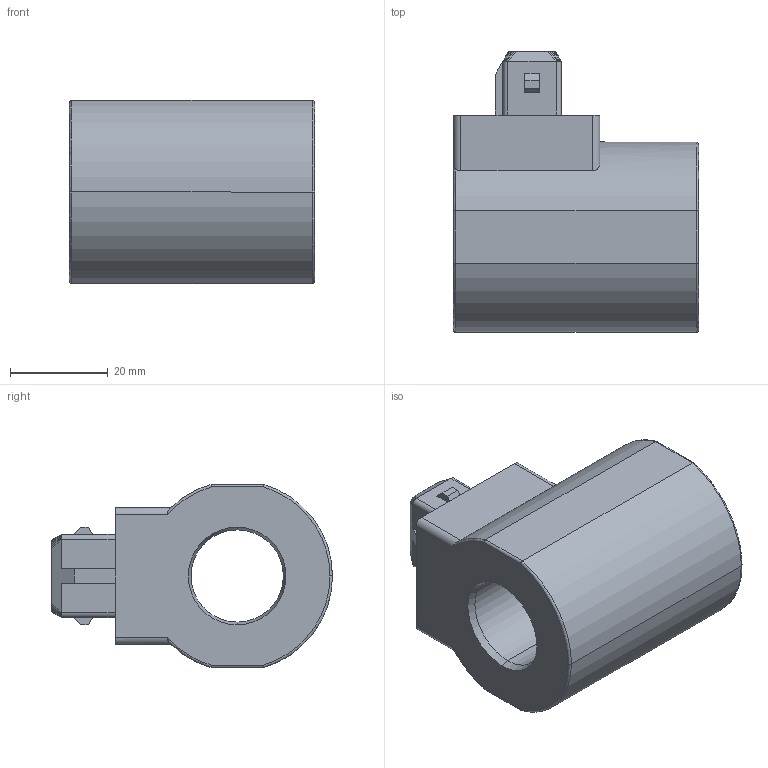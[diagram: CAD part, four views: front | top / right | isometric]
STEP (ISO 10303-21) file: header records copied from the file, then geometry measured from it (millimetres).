
FILE_DESCRIPTION (( 'STEP AP214' ), '1' );
FILE_NAME ('KJ35_16.STEP', '2014-01-22T14:17:01', ( '' ), ( '' ), 'SwSTEP 2.0', 'SolidWorks 2012', '' );
FILE_SCHEMA (( 'AUTOMOTIVE_DESIGN' ));
Length unit declared in the file: millimetre
Products named in the file (1): KJ35_16
Bounding box: 50.2 x 57.5 x 37.5 mm (x, y, z)
Volume: 53321 mm3; surface area: 12885.4 mm2
Topology: 1 solids, 2 shells, 147 faces, 385 edges, 246 vertices
Faces by surface type: plane 113, cylinder 23, bspline 7, cone 4
Entity records: 6584 total; most frequent: CARTESIAN_POINT 1404, ORIENTED_EDGE 770, DIRECTION 688, EDGE_CURVE 385, LINE 306, VECTOR 306, VERTEX_POINT 246, AXIS2_PLACEMENT_3D 191
